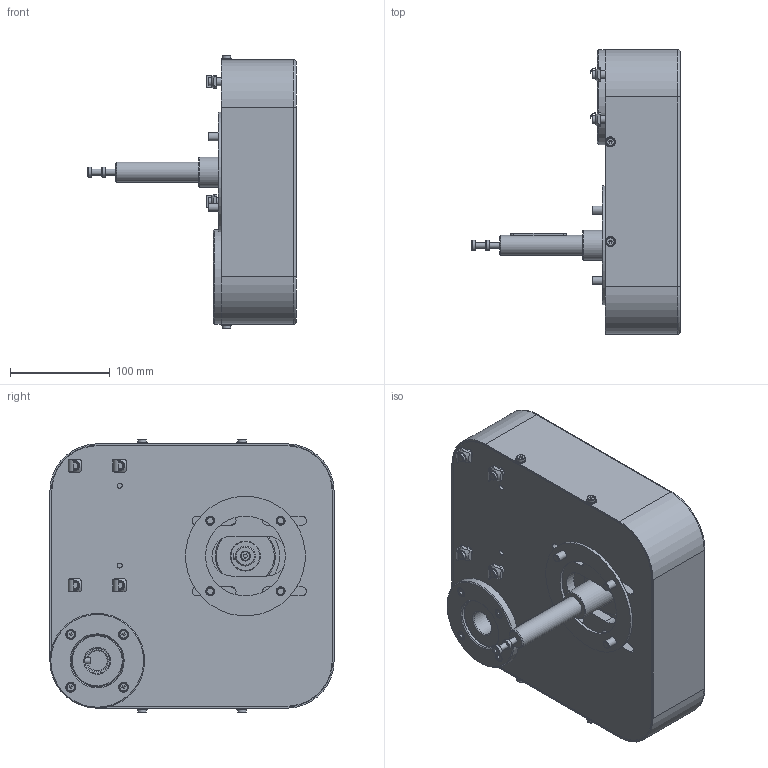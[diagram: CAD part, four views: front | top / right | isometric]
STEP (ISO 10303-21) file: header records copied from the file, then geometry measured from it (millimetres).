
FILE_DESCRIPTION(/* description */ (''),/* implementation_level */ '2;1');
FILE_NAME(/* name */ 'Z:\WEBSITE\DREAMWEAVER\MiniTec\Products\Belt_And_Roller_Conveyors\CAD\Step\29.5060 MOTOR MOUNTING KIT 90.stp',/* time_stamp */ '2020-08-13T10:04:36-04:00',/* author */ ('amoles'),/* organization */ (''),/* preprocessor_version */ 'ST-DEVELOPER v18',/* originating_system */ 'Autodesk Inventor 2020',/* authorisation */ '');
FILE_SCHEMA (('AUTOMOTIVE_DESIGN { 1 0 10303 214 3 1 1 }'));
Products named in the file (20): 29.5060 MOTOR MOUNTING KIT 90; 16; 15; 13; 21.1220; 9; 21.1351/2; 21.1121; 21.1279; 29.5060 TIMING BELT; 12; 29.5060 key 6X6X36; 10; 21.1242 ; 21.1247; 29.5063_Pulley_Motor Kit 90; 14; 21.1127 ; 21.1204 ; SET SCREW M5X10 POINTED END DIN 914
Assembly tree (48 placements, depth 2):
  29.5060 MOTOR MOUNTING KIT 90
    16
    15
    13
    21.1220  x4
    9
    21.1351/2  x4
    21.1121  x4
    21.1279  x4
    21.1127   x8
    21.1204   x8
    29.5063_Pulley_Motor Kit 90  x2
    SET SCREW M5X10 POINTED END DIN 914  x2
    29.5060 TIMING BELT
    12
    29.5060 key 6X6X36  x2
    10
    21.1242 
    21.1247
    14
Bounding box: 209 x 285 x 274 mm (x, y, z)
Volume: 1534632.7 mm3; surface area: 634774.1 mm2
Topology: 48 solids, 48 shells, 960 faces, 2537 edges, 1715 vertices
Faces by surface type: plane 556, cylinder 316, cone 62, torus 26
Full cylindrical faces by diameter (mm): 4.134 x2, 4.917 x1, 5 x20, 5.3 x4, 5.5 x4, 6 x6, 8 x12, 8.4 x8, 8.5 x12, 9 x4, 10 x10, 13 x8, 16 x8, 20 x2, 25 x1, 28 x1, 30 x1, 46 x1, 52 x2, 60 x2, 65 x2, 68.6 x4, 80 x1, 82 x4, 95 x1, 120 x1
Entity records: 18621 total; most frequent: CARTESIAN_POINT 3305, DIRECTION 3061, ORIENTED_EDGE 2884, EDGE_CURVE 1442, AXIS2_PLACEMENT_3D 1078, VERTEX_POINT 972, LINE 905, VECTOR 905
